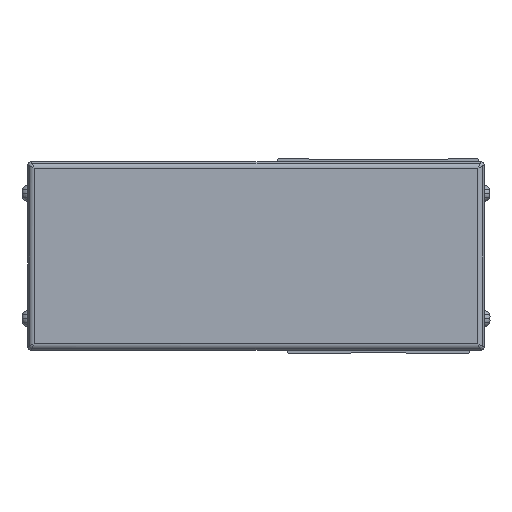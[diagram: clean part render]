
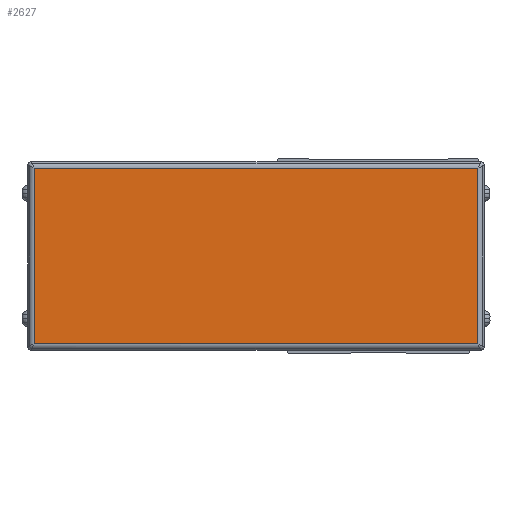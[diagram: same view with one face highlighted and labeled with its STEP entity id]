
A CAD part, front view. The second image highlights one B-rep face of the part: STEP entity #2627.
In plain terms, the highlighted planar face has unit normal (0, -1, 0).
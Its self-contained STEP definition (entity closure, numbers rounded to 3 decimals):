
#2627=ADVANCED_FACE('',(#6604),#6605,.F.);
#6604=FACE_OUTER_BOUND('',#12362,.T.);
#6605=PLANE('',#12363);
#12362=EDGE_LOOP('',(#19979,#19980,#19981,#19982));
#12363=AXIS2_PLACEMENT_3D('',#19983,#19984,#19985);
#19979=ORIENTED_EDGE('',*,*,#35445,.T.);
#19980=ORIENTED_EDGE('',*,*,#35446,.T.);
#19981=ORIENTED_EDGE('',*,*,#35447,.T.);
#19982=ORIENTED_EDGE('',*,*,#35448,.T.);
#19983=CARTESIAN_POINT('',(261.,6.,-4.));
#19984=DIRECTION('',(0.,1.0,0.));
#19985=DIRECTION('',(0.,0.,1.0));
#35445=EDGE_CURVE('',#42618,#42619,#42620,.T.);
#35446=EDGE_CURVE('',#42619,#42621,#42622,.T.);
#35447=EDGE_CURVE('',#42621,#42623,#42624,.T.);
#35448=EDGE_CURVE('',#42623,#42618,#42625,.T.);
#42618=VERTEX_POINT('',#52633);
#42619=VERTEX_POINT('',#52634);
#42620=LINE('',#52635,#52636);
#42621=VERTEX_POINT('',#52637);
#42622=LINE('',#52638,#52639);
#42623=VERTEX_POINT('',#52640);
#42624=LINE('',#52641,#52642);
#42625=LINE('',#52643,#52644);
#52633=CARTESIAN_POINT('',(331.7,6.,24.));
#52634=CARTESIAN_POINT('',(190.3,6.,24.));
#52635=CARTESIAN_POINT('',(261.,6.,24.));
#52636=VECTOR('',#64712,10.0);
#52637=CARTESIAN_POINT('',(190.3,6.,-32.));
#52638=CARTESIAN_POINT('',(190.3,6.,-4.));
#52639=VECTOR('',#64713,10.0);
#52640=CARTESIAN_POINT('',(331.7,6.,-32.));
#52641=CARTESIAN_POINT('',(261.,6.,-32.));
#52642=VECTOR('',#64714,10.0);
#52643=CARTESIAN_POINT('',(331.7,6.,-4.));
#52644=VECTOR('',#64715,10.0);
#64712=DIRECTION('',(-1.0,0.,0.));
#64713=DIRECTION('',(0.,0.,-1.0));
#64714=DIRECTION('',(1.0,0.,0.));
#64715=DIRECTION('',(0.,0.,1.0));
